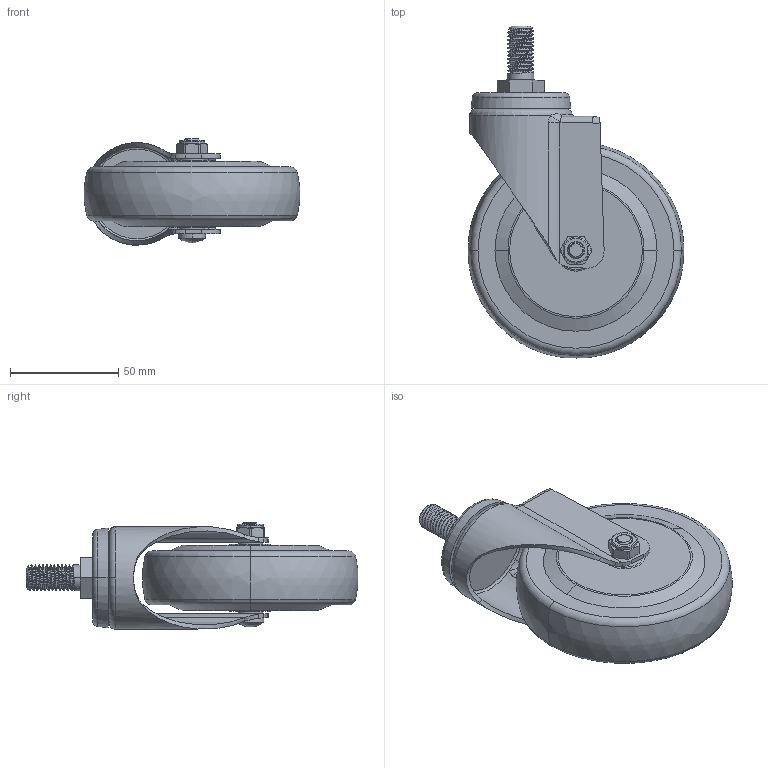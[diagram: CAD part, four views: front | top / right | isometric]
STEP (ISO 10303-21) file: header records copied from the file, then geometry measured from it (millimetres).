
FILE_DESCRIPTION((''),'2;1');
FILE_NAME('361125-3625-64_ASM','2020-01-03T',('L'),(''),'PRO/ENGINEER BY PARAMETRIC TECHNOLOGY CORPORATION, 2010280','PRO/ENGINEER BY PARAMETRIC TECHNOLOGY CORPORATION, 2010280','');
FILE_SCHEMA(('CONFIG_CONTROL_DESIGN'));
Length unit declared in the file: millimetre
Products named in the file (5): 36134; 364-964; 350-33A; 300-34; 361125-3625-64_ASM
Assembly tree (4 placements, depth 2):
  361125-3625-64_ASM
    36134
    364-964
    350-33A
    300-34
Bounding box: 99.72 x 153.66 x 49.22 mm (x, y, z)
Volume: 243674.7 mm3; surface area: 47487.7 mm2
Topology: 4 solids, 4 shells, 246 faces, 606 edges, 380 vertices
Faces by surface type: cylinder 92, bspline 51, plane 49, torus 28, cone 24, sphere 2
Entity records: 14650 total; most frequent: CARTESIAN_POINT 9125, ORIENTED_EDGE 1208, DIRECTION 995, EDGE_CURVE 604, AXIS2_PLACEMENT_3D 396, VERTEX_POINT 380, EDGE_LOOP 268, FACE_OUTER_BOUND 246
